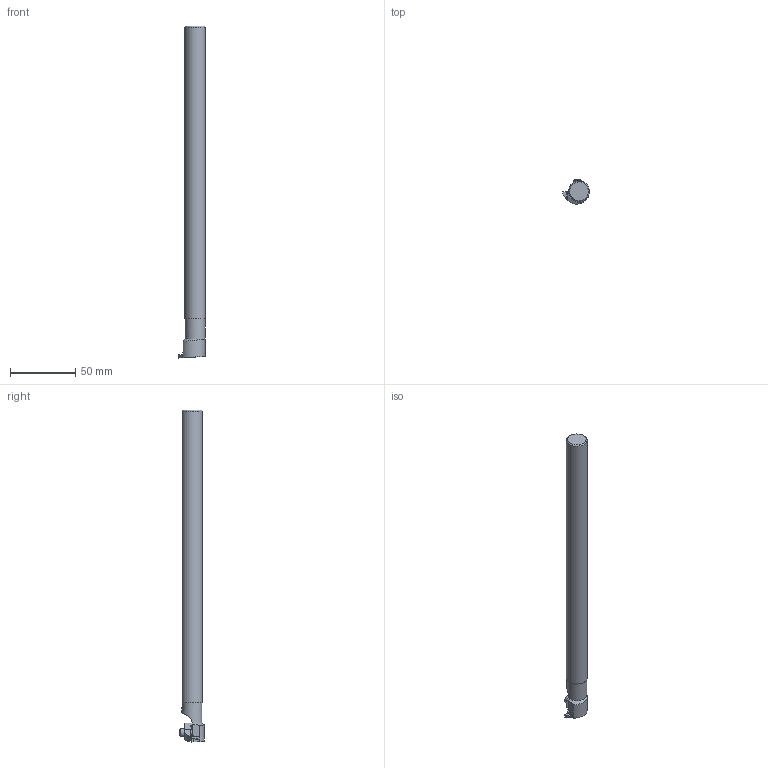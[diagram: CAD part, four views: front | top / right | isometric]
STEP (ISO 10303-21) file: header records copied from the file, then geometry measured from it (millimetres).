
FILE_DESCRIPTION(/* description */ (''),/* implementation_level */ '2;1');
FILE_NAME(/* name */ 'HA10NER2.stp',/* time_stamp */ '2021-06-17T18:04:56+06:00',/* author */ (''),/* organization */ (''),/* preprocessor_version */ 'ST-DEVELOPER v16.7',/* originating_system */ 'SIEMENS PLM Software NX 12.0',/* authorisation */ '');
FILE_SCHEMA (('AUTOMOTIVE_DESIGN { 1 0 10303 214 3 1 1 1 }'));
Length unit declared in the file: millimetre
Products named in the file (1): HA10NER2
Bounding box: 20.64 x 18.41 x 254 mm (x, y, z)
Volume: 48486.7 mm3; surface area: 13810.2 mm2
Topology: 4 solids, 4 shells, 88 faces, 234 edges, 155 vertices
Faces by surface type: plane 60, cylinder 20, cone 4, bspline 4
Full cylindrical faces by diameter (mm): 3.505 x1, 5.74 x1, 15.202 x1
Entity records: 2877 total; most frequent: CARTESIAN_POINT 662, ORIENTED_EDGE 452, DIRECTION 431, EDGE_CURVE 226, LINE 155, VECTOR 155, VERTEX_POINT 153, AXIS2_PLACEMENT_3D 138
